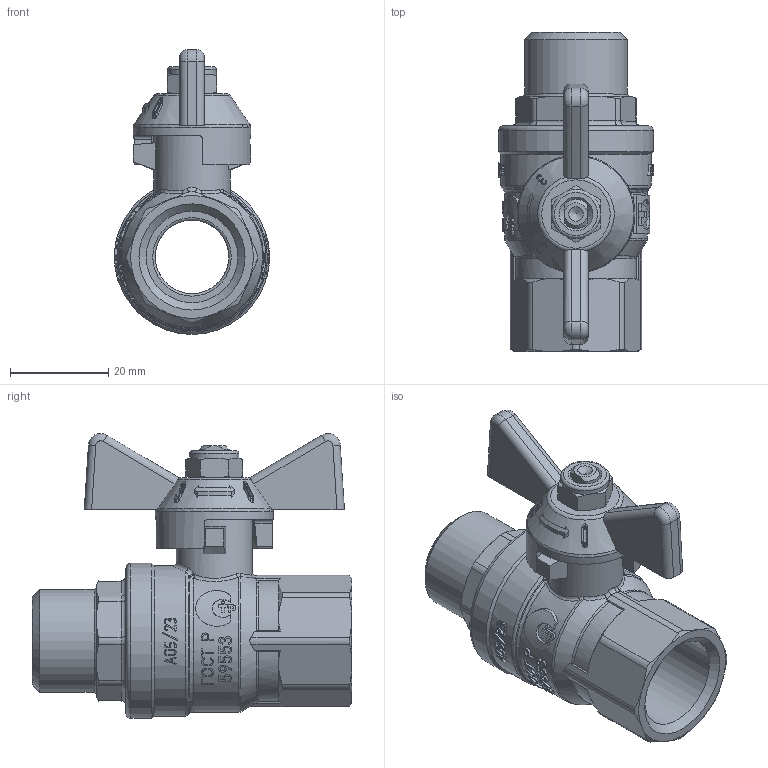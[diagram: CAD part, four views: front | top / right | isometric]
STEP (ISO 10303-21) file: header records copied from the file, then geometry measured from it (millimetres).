
FILE_DESCRIPTION(('STEP AP203'), '1');
FILE_NAME('VT.418.N.04', '2026-04-29T12:28:01', ('User'), ('Vesta'), 'C3D Converter', 'C3D Toolkit', '');
FILE_SCHEMA(('CONFIG_CONTROL_DESIGN'));
Length unit declared in the file: millimetre
Products named in the file (1): ВР.491816.001.000 СБ
Bounding box: 31.6 x 65.1 x 58.05 mm (x, y, z)
Volume: 30604.5 mm3; surface area: 13534.9 mm2
Topology: 1 solids, 1 shells, 1308 faces, 3679 edges, 2423 vertices
Faces by surface type: plane 718, extrusion 370, cylinder 116, cone 57, torus 31, bspline 16
Full cylindrical faces by diameter (mm): 0.644 x1, 4 x1, 10 x1, 15 x5, 15.5 x1, 18.632 x1, 20.955 x1, 24 x1, 30.6 x1, 31.6 x1
Entity records: 54523 total; most frequent: CARTESIAN_POINT 25015, ORIENTED_EDGE 7262, DIRECTION 4454, EDGE_CURVE 3631, VERTEX_POINT 2414, VECTOR 1740, B_SPLINE_CURVE_WITH_KNOTS 1405, EDGE_LOOP 1403
